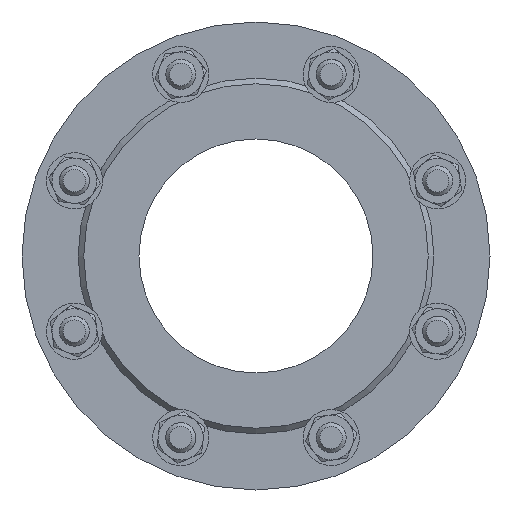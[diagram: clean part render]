
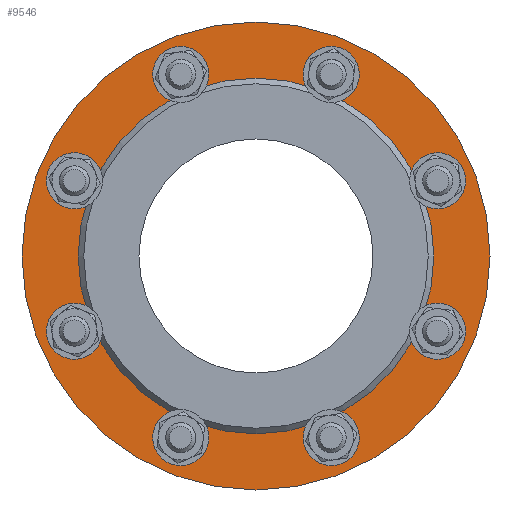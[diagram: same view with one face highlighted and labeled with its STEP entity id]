
A CAD part, left-side view. The second image highlights one B-rep face of the part: STEP entity #9546.
In plain terms, the highlighted planar face has unit normal (-1, 0, 0).
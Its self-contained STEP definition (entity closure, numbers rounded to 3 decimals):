
#26 = DIRECTION ( 'NONE',  ( -1., 0., 0. ) ) ;
#72 = CARTESIAN_POINT ( 'NONE',  ( -60., -125., 0. ) ) ;
#290 = DIRECTION ( 'NONE',  ( 0., 0., -1. ) ) ;
#365 = CARTESIAN_POINT ( 'NONE',  ( -60., 40.182, 89.007 ) ) ;
#437 = DIRECTION ( 'NONE',  ( 0., 0., -1. ) ) ;
#1078 = DIRECTION ( 'NONE',  ( -1., 0., 0. ) ) ;
#1244 = ORIENTED_EDGE ( 'NONE', *, *, #25024, .F. ) ;
#1606 = EDGE_LOOP ( 'NONE', ( #19062 ) ) ;
#1681 = VERTEX_POINT ( 'NONE', #19505 ) ;
#2080 = CARTESIAN_POINT ( 'NONE',  ( -60., 0., 0. ) ) ;
#2987 = AXIS2_PLACEMENT_3D ( 'NONE', #13659, #22715, #9333 ) ;
#3266 = CARTESIAN_POINT ( 'NONE',  ( -60., 97.007, 32.182 ) ) ;
#3274 = FACE_BOUND ( 'NONE', #23315, .T. ) ;
#3593 = DIRECTION ( 'NONE',  ( 0., 0., -1. ) ) ;
#3597 = DIRECTION ( 'NONE',  ( 0., 0., -1. ) ) ;
#3714 = FACE_BOUND ( 'NONE', #17948, .T. ) ;
#3735 = DIRECTION ( 'NONE',  ( -1., 0., 0. ) ) ;
#3737 = VERTEX_POINT ( 'NONE', #27759 ) ;
#3857 = FACE_BOUND ( 'NONE', #19142, .T. ) ;
#4200 = ORIENTED_EDGE ( 'NONE', *, *, #22894, .T. ) ;
#4212 = CARTESIAN_POINT ( 'NONE',  ( -60., -40.182, 97.007 ) ) ;
#4226 = EDGE_CURVE ( 'NONE', #7658, #7658, #12975, .T. ) ;
#4447 = EDGE_LOOP ( 'NONE', ( #4200 ) ) ;
#4677 = DIRECTION ( 'NONE',  ( 0., 0., -1. ) ) ;
#5137 = CARTESIAN_POINT ( 'NONE',  ( -60., -40.182, 89.007 ) ) ;
#5236 = CIRCLE ( 'NONE', #26369, 8. ) ;
#5577 = DIRECTION ( 'NONE',  ( 1., 0., 0. ) ) ;
#5941 = CIRCLE ( 'NONE', #18322, 8. ) ;
#6015 = FACE_BOUND ( 'NONE', #21901, .T. ) ;
#6364 = CIRCLE ( 'NONE', #24264, 8. ) ;
#6720 = AXIS2_PLACEMENT_3D ( 'NONE', #2080, #26, #17339 ) ;
#6807 = DIRECTION ( 'NONE',  ( 0., -1., 0. ) ) ;
#7131 = ORIENTED_EDGE ( 'NONE', *, *, #14993, .F. ) ;
#7159 = VERTEX_POINT ( 'NONE', #72 ) ;
#7335 = CARTESIAN_POINT ( 'NONE',  ( -60., 97.007, -48.182 ) ) ;
#7583 = VERTEX_POINT ( 'NONE', #3266 ) ;
#7658 = VERTEX_POINT ( 'NONE', #16423 ) ;
#7720 = DIRECTION ( 'NONE',  ( 0., 0., -1. ) ) ;
#7734 = FACE_BOUND ( 'NONE', #25740, .T. ) ;
#7883 = FACE_BOUND ( 'NONE', #21033, .T. ) ;
#8278 = ORIENTED_EDGE ( 'NONE', *, *, #20271, .F. ) ;
#8579 = AXIS2_PLACEMENT_3D ( 'NONE', #16501, #5577, #14779 ) ;
#8705 = ORIENTED_EDGE ( 'NONE', *, *, #17702, .F. ) ;
#8718 = AXIS2_PLACEMENT_3D ( 'NONE', #24395, #22382, #4677 ) ;
#9333 = DIRECTION ( 'NONE',  ( 0., 0., -1. ) ) ;
#9546 = ADVANCED_FACE ( 'NONE', ( #22992, #18663, #3274, #3714, #10026, #7883, #7734, #3857, #6015, #23135 ), #18814, .F. ) ;
#10016 = VERTEX_POINT ( 'NONE', #12031 ) ;
#10026 = FACE_BOUND ( 'NONE', #1606, .T. ) ;
#10103 = EDGE_LOOP ( 'NONE', ( #27928 ) ) ;
#11508 = ORIENTED_EDGE ( 'NONE', *, *, #16918, .F. ) ;
#11710 = CIRCLE ( 'NONE', #2987, 8. ) ;
#11782 = VERTEX_POINT ( 'NONE', #7335 ) ;
#11893 = VERTEX_POINT ( 'NONE', #5137 ) ;
#12031 = CARTESIAN_POINT ( 'NONE',  ( -60., -97.007, 32.182 ) ) ;
#12212 = CARTESIAN_POINT ( 'NONE',  ( -60., 97.007, 40.182 ) ) ;
#12862 = DIRECTION ( 'NONE',  ( -1., 0., 0. ) ) ;
#12920 = CARTESIAN_POINT ( 'NONE',  ( -60., 97.007, -40.182 ) ) ;
#12975 = CIRCLE ( 'NONE', #21732, 8. ) ;
#13659 = CARTESIAN_POINT ( 'NONE',  ( -60., 40.182, 97.007 ) ) ;
#14524 = CARTESIAN_POINT ( 'NONE',  ( -60., -97.007, -40.182 ) ) ;
#14779 = DIRECTION ( 'NONE',  ( 0., 1., 0. ) ) ;
#14993 = EDGE_CURVE ( 'NONE', #18838, #18838, #5236, .T. ) ;
#15702 = DIRECTION ( 'NONE',  ( -1., 0., 0. ) ) ;
#15823 = ORIENTED_EDGE ( 'NONE', *, *, #24346, .F. ) ;
#16423 = CARTESIAN_POINT ( 'NONE',  ( -60., -97.007, -48.182 ) ) ;
#16501 = CARTESIAN_POINT ( 'NONE',  ( -60., 0., 125. ) ) ;
#16918 = EDGE_CURVE ( 'NONE', #11782, #11782, #23543, .T. ) ;
#16988 = CIRCLE ( 'NONE', #8718, 8. ) ;
#17339 = DIRECTION ( 'NONE',  ( 0., -1., 0. ) ) ;
#17469 = AXIS2_PLACEMENT_3D ( 'NONE', #24993, #1078, #7720 ) ;
#17513 = VERTEX_POINT ( 'NONE', #365 ) ;
#17702 = EDGE_CURVE ( 'NONE', #3737, #3737, #23581, .T. ) ;
#17948 = EDGE_LOOP ( 'NONE', ( #1244 ) ) ;
#18322 = AXIS2_PLACEMENT_3D ( 'NONE', #12212, #3735, #3593 ) ;
#18663 = FACE_BOUND ( 'NONE', #10103, .T. ) ;
#18814 = PLANE ( 'NONE',  #8579 ) ;
#18838 = VERTEX_POINT ( 'NONE', #25318 ) ;
#18860 = CIRCLE ( 'NONE', #17469, 8. ) ;
#19062 = ORIENTED_EDGE ( 'NONE', *, *, #25650, .F. ) ;
#19142 = EDGE_LOOP ( 'NONE', ( #11508 ) ) ;
#19144 = CIRCLE ( 'NONE', #6720, 125. ) ;
#19505 = CARTESIAN_POINT ( 'NONE',  ( -60., -40.182, -105.007 ) ) ;
#19755 = DIRECTION ( 'NONE',  ( -1., 0., 0. ) ) ;
#20271 = EDGE_CURVE ( 'NONE', #17513, #17513, #11710, .T. ) ;
#21033 = EDGE_LOOP ( 'NONE', ( #8278 ) ) ;
#21732 = AXIS2_PLACEMENT_3D ( 'NONE', #14524, #27761, #3597 ) ;
#21901 = EDGE_LOOP ( 'NONE', ( #8705 ) ) ;
#21915 = CARTESIAN_POINT ( 'NONE',  ( -60., 40.182, -97.007 ) ) ;
#22382 = DIRECTION ( 'NONE',  ( -1., 0., 0. ) ) ;
#22715 = DIRECTION ( 'NONE',  ( -1., 0., 0. ) ) ;
#22894 = EDGE_CURVE ( 'NONE', #7159, #7159, #19144, .T. ) ;
#22992 = FACE_BOUND ( 'NONE', #26539, .T. ) ;
#23063 = AXIS2_PLACEMENT_3D ( 'NONE', #12920, #27762, #28320 ) ;
#23135 = FACE_OUTER_BOUND ( 'NONE', #4447, .T. ) ;
#23315 = EDGE_LOOP ( 'NONE', ( #7131 ) ) ;
#23543 = CIRCLE ( 'NONE', #23063, 8. ) ;
#23581 = CIRCLE ( 'NONE', #27251, 95. ) ;
#24229 = CARTESIAN_POINT ( 'NONE',  ( -60., 0., 0. ) ) ;
#24264 = AXIS2_PLACEMENT_3D ( 'NONE', #4212, #19755, #290 ) ;
#24346 = EDGE_CURVE ( 'NONE', #11893, #11893, #6364, .T. ) ;
#24395 = CARTESIAN_POINT ( 'NONE',  ( -60., -97.007, 40.182 ) ) ;
#24993 = CARTESIAN_POINT ( 'NONE',  ( -60., -40.182, -97.007 ) ) ;
#25024 = EDGE_CURVE ( 'NONE', #7583, #7583, #5941, .T. ) ;
#25318 = CARTESIAN_POINT ( 'NONE',  ( -60., 40.182, -105.007 ) ) ;
#25650 = EDGE_CURVE ( 'NONE', #10016, #10016, #16988, .T. ) ;
#25740 = EDGE_LOOP ( 'NONE', ( #15823 ) ) ;
#26369 = AXIS2_PLACEMENT_3D ( 'NONE', #21915, #15702, #437 ) ;
#26539 = EDGE_LOOP ( 'NONE', ( #28162 ) ) ;
#27251 = AXIS2_PLACEMENT_3D ( 'NONE', #24229, #12862, #6807 ) ;
#27759 = CARTESIAN_POINT ( 'NONE',  ( -60., -95., 0. ) ) ;
#27761 = DIRECTION ( 'NONE',  ( -1., 0., 0. ) ) ;
#27762 = DIRECTION ( 'NONE',  ( -1., 0., 0. ) ) ;
#27928 = ORIENTED_EDGE ( 'NONE', *, *, #28333, .F. ) ;
#28162 = ORIENTED_EDGE ( 'NONE', *, *, #4226, .F. ) ;
#28320 = DIRECTION ( 'NONE',  ( 0., 0., -1. ) ) ;
#28333 = EDGE_CURVE ( 'NONE', #1681, #1681, #18860, .T. ) ;
